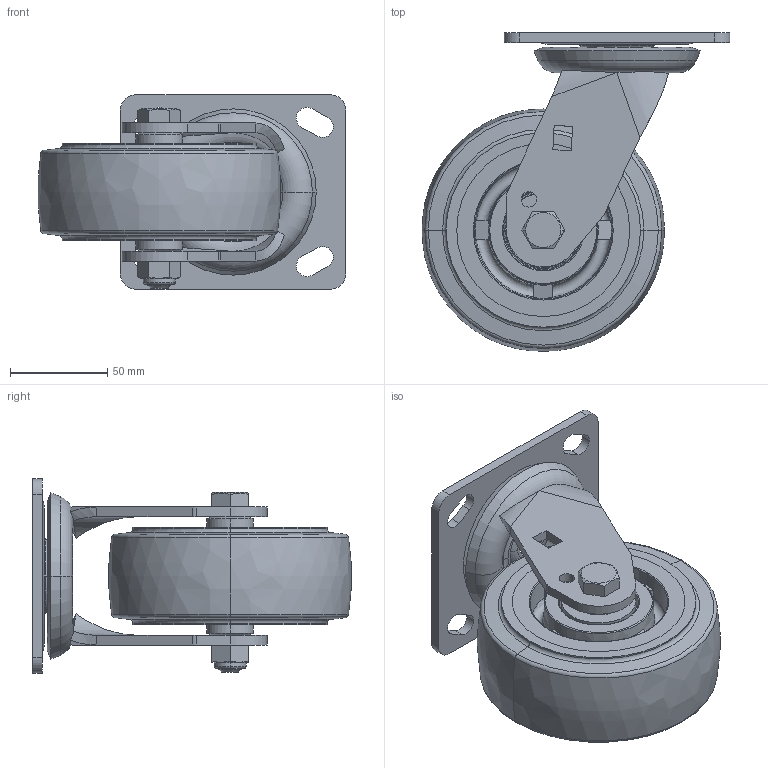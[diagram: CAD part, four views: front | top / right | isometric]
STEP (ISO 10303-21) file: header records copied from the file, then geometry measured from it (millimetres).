
FILE_DESCRIPTION((''),'2;1');
FILE_NAME('S75715_ASM','2026-07-17T',('Lenovo'),(''),'PRO/ENGINEER BY PARAMETRIC TECHNOLOGY CORPORATION, 2010280','PRO/ENGINEER BY PARAMETRIC TECHNOLOGY CORPORATION, 2010280','');
FILE_SCHEMA(('CONFIG_CONTROL_DESIGN'));
Length unit declared in the file: millimetre
Products named in the file (11): S7505-353; S7570-201; S7500-211; 735-986; 6203; 700-67; 700-54; 735-86_ASM; 700-33; 700-34; S75715_ASM
Assembly tree (12 placements, depth 3):
  S75715_ASM
    S7505-353
    S7570-201
    S7500-211
    735-86_ASM
      735-986
      6203  x2
      700-67  x2
      700-54
    700-33
    700-34
Bounding box: 158.33 x 163.83 x 100 mm (x, y, z)
Volume: 394381.4 mm3; surface area: 176924 mm2
Topology: 38 solids, 39 shells, 424 faces, 993 edges, 570 vertices
Faces by surface type: plane 123, cylinder 107, torus 82, cone 54, sphere 48, bspline 10
Entity records: 10963 total; most frequent: CARTESIAN_POINT 2632, DIRECTION 1831, ORIENTED_EDGE 1578, EDGE_CURVE 789, AXIS2_PLACEMENT_3D 775, VERTEX_POINT 496, EDGE_LOOP 413, CIRCLE 396
